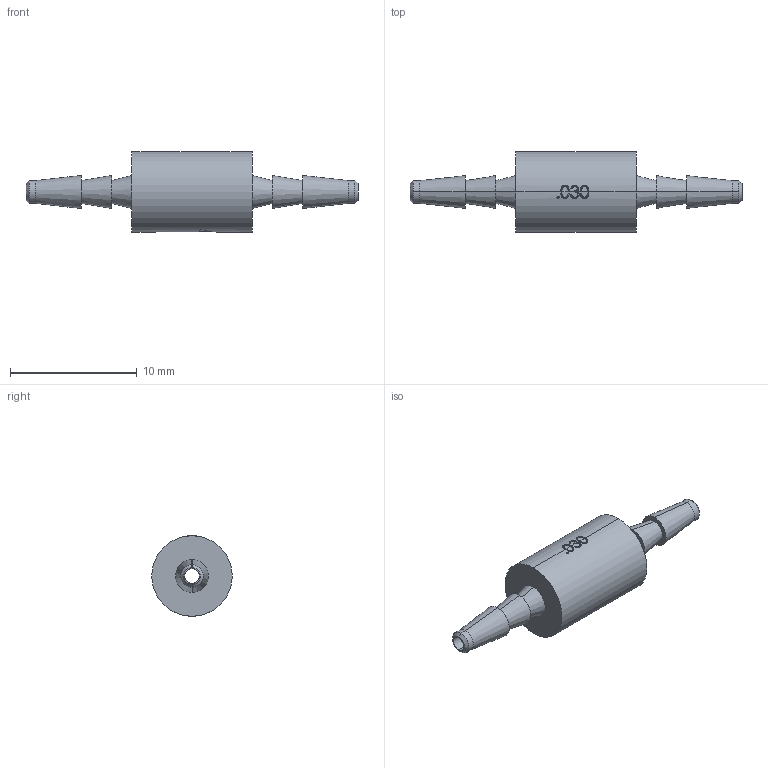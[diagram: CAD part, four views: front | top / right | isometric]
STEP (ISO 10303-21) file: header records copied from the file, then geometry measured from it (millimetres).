
FILE_DESCRIPTION(/* description */ ('SolidWorks IGES file using analytic representation for surfaces '),/* implementation_level */ '2;1');
FILE_NAME(/* name */ 'K:\Normteile INVENTOR\Air-Logic\Orifice restrictors\F-2815-301-B80.IGS.ipt.stp',/* time_stamp */ '2020-05-27T10:46:50+02:00',/* author */ ('cad'),/* organization */ (''),/* preprocessor_version */ 'ST-DEVELOPER v18',/* originating_system */ 'Autodesk Inventor 2020',/* authorisation */ '');
FILE_SCHEMA (('AUTOMOTIVE_DESIGN { 1 0 10303 214 3 1 1 }'));
Length unit declared in the file: millimetre
Products named in the file (1): F-2815-301-B80.IGS
Bounding box: 26.21 x 6.35 x 6.35 mm (x, y, z)
Surface area: 467.1 mm2 (no closed solid volume)
Topology: 0 solids, 90 shells, 90 faces, 451 edges, 451 vertices
Faces by surface type: bspline 38, cylinder 20, cone 16, plane 16
Entity records: 9317 total; most frequent: CARTESIAN_POINT 5989, DIRECTION 480, VERTEX_POINT 451, EDGE_CURVE 451, ORIENTED_EDGE 451, LINE 210, VECTOR 210, B_SPLINE_CURVE_WITH_KNOTS 159
